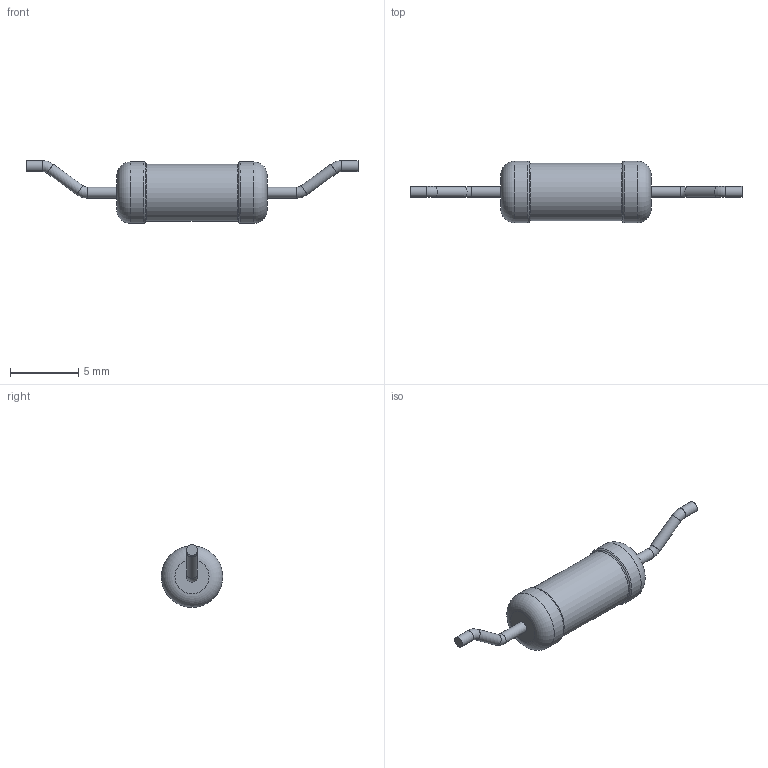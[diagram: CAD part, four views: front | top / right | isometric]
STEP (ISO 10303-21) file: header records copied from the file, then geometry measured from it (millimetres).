
FILE_DESCRIPTION(('STEP AP203'), '1');
FILE_NAME('Ñ2-29Â-0,25(3)', '', ('UNSPECIFIED'), ('UNSPECIFIED'), 'ASCON STEP Converter 1.6', 'ASCON Math Kernel', '');
FILE_SCHEMA(('CONFIG_CONTROL_DESIGN'));
Length unit declared in the file: millimetre
Bounding box: 24.3 x 4.5 x 4.6 mm (x, y, z)
Volume: 162 mm3; surface area: 206 mm2
Topology: 1 solids, 1 shells, 23 faces, 41 edges, 22 vertices
Faces by surface type: torus 10, cylinder 9, plane 4
Full cylindrical faces by diameter (mm): 0.8 x6, 4.184 x1, 4.5 x2
Entity records: 682 total; most frequent: DIRECTION 92, CARTESIAN_POINT 68, AXIS2_PLACEMENT_3D 46, EDGE_LOOP 44, ORIENTED_EDGE 44, FACE_OUTER_BOUND 38, COLOUR_RGB 24, FILL_AREA_STYLE_COLOUR 24
